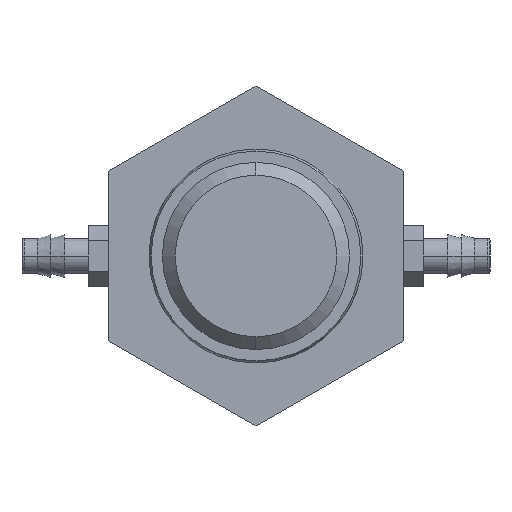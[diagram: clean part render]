
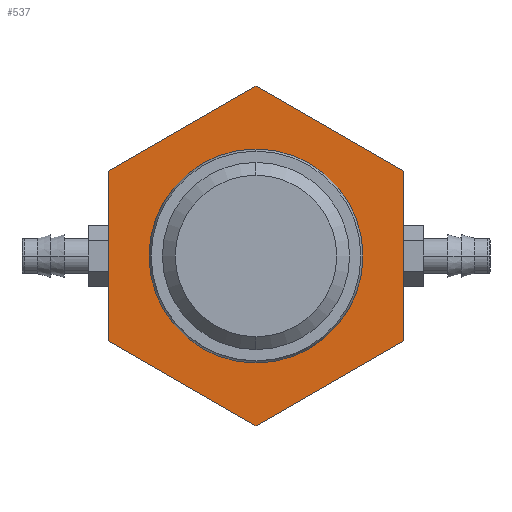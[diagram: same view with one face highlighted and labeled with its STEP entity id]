
A CAD part, left-side view. The second image highlights one B-rep face of the part: STEP entity #537.
In plain terms, the highlighted planar face has unit normal (-1, 0, 0).
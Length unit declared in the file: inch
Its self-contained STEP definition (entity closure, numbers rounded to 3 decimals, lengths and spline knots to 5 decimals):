
#231=DIRECTION('',(0.,0.,-1.));
#232=VECTOR('',#231,0.79386);
#233=CARTESIAN_POINT('',(-2.75,-0.6875,0.39693));
#234=LINE('',#233,#232);
#239=DIRECTION('',(0.,-0.866,-0.5));
#240=VECTOR('',#239,0.79386);
#241=CARTESIAN_POINT('',(-2.75,0.6875,-0.39693));
#242=LINE('',#241,#240);
#243=DIRECTION('',(0.,0.866,-0.5));
#244=VECTOR('',#243,0.79386);
#245=CARTESIAN_POINT('',(-2.75,0.,0.79386));
#246=LINE('',#245,#244);
#247=DIRECTION('',(0.,0.866,0.5));
#248=VECTOR('',#247,0.79386);
#249=CARTESIAN_POINT('',(-2.75,-0.6875,0.39693));
#250=LINE('',#249,#248);
#251=DIRECTION('',(0.,-0.866,0.5));
#252=VECTOR('',#251,0.79386);
#253=CARTESIAN_POINT('',(-2.75,0.,-0.79386));
#254=LINE('',#253,#252);
#255=CARTESIAN_POINT('',(-2.75,0.,0.));
#256=DIRECTION('',(1.,0.,0.));
#257=DIRECTION('',(0.,0.,1.));
#258=AXIS2_PLACEMENT_3D('',#255,#256,#257);
#260=CARTESIAN_POINT('',(-2.75,0.,0.));
#261=DIRECTION('',(1.,0.,0.));
#262=DIRECTION('',(0.,0.,-1.));
#263=AXIS2_PLACEMENT_3D('',#260,#261,#262);
#269=DIRECTION('',(0.,0.,1.));
#270=VECTOR('',#269,0.79386);
#271=CARTESIAN_POINT('',(-2.75,0.6875,-0.39693));
#272=LINE('',#271,#270);
#411=CARTESIAN_POINT('',(-2.75,-0.6875,-0.39693));
#412=VERTEX_POINT('',#411);
#413=CARTESIAN_POINT('',(-2.75,0.,-0.79386));
#414=VERTEX_POINT('',#413);
#417=CARTESIAN_POINT('',(-2.75,-0.6875,0.39693));
#418=VERTEX_POINT('',#417);
#423=CARTESIAN_POINT('',(-2.75,0.,0.79386));
#424=VERTEX_POINT('',#423);
#425=CARTESIAN_POINT('',(-2.75,0.6875,-0.39693));
#426=VERTEX_POINT('',#425);
#427=CARTESIAN_POINT('',(-2.75,0.6875,0.39693));
#428=VERTEX_POINT('',#427);
#449=CARTESIAN_POINT('',(-2.75,0.,-0.413));
#451=VERTEX_POINT('',#449);
#453=CARTESIAN_POINT('',(-2.75,0.,0.413));
#455=VERTEX_POINT('',#453);
#514=CARTESIAN_POINT('',(-2.75,0.,0.));
#515=DIRECTION('',(-1.,0.,0.));
#516=DIRECTION('',(0.,0.,1.));
#517=AXIS2_PLACEMENT_3D('',#514,#515,#516);
#518=PLANE('',#517);
#520=ORIENTED_EDGE('',*,*,#519,.F.);
#522=ORIENTED_EDGE('',*,*,#521,.T.);
#524=ORIENTED_EDGE('',*,*,#523,.F.);
#526=ORIENTED_EDGE('',*,*,#525,.F.);
#527=ORIENTED_EDGE('',*,*,#507,.T.);
#528=ORIENTED_EDGE('',*,*,#474,.F.);
#529=EDGE_LOOP('',(#520,#522,#524,#526,#527,#528));
#530=FACE_OUTER_BOUND('',#529,.F.);
#532=ORIENTED_EDGE('',*,*,#531,.F.);
#534=ORIENTED_EDGE('',*,*,#533,.F.);
#535=EDGE_LOOP('',(#532,#534));
#536=FACE_BOUND('',#535,.F.);
#259=CIRCLE('',#258,0.413);
#264=CIRCLE('',#263,0.413);
#474=EDGE_CURVE('',#414,#412,#254,.T.);
#507=EDGE_CURVE('',#418,#412,#234,.T.);
#519=EDGE_CURVE('',#426,#414,#242,.T.);
#521=EDGE_CURVE('',#426,#428,#272,.T.);
#523=EDGE_CURVE('',#424,#428,#246,.T.);
#525=EDGE_CURVE('',#418,#424,#250,.T.);
#531=EDGE_CURVE('',#455,#451,#259,.T.);
#533=EDGE_CURVE('',#451,#455,#264,.T.);
#537=ADVANCED_FACE('',(#530,#536),#518,.T.);
